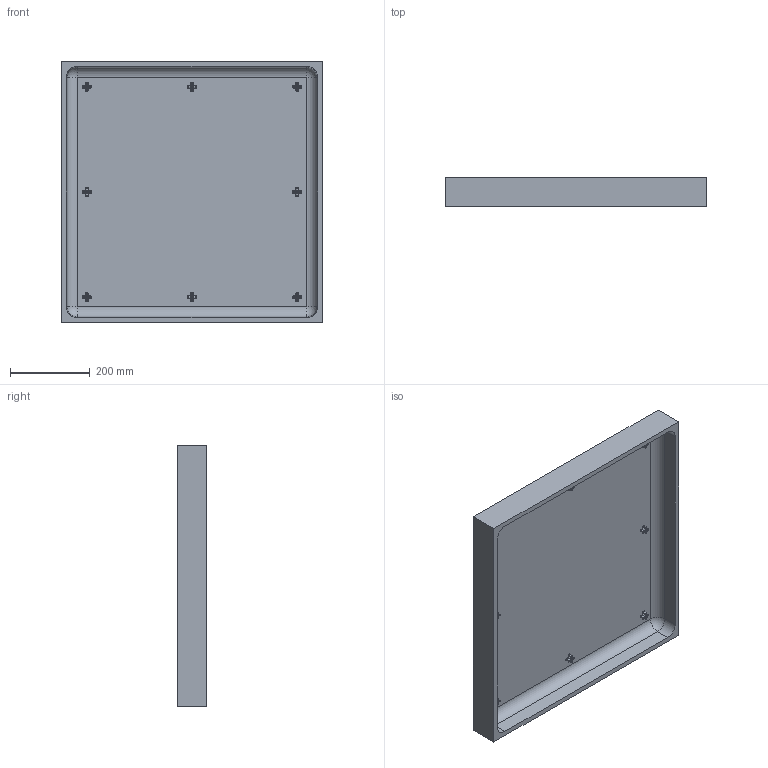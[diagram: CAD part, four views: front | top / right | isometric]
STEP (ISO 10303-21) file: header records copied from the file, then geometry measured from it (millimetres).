
FILE_DESCRIPTION (( 'STEP AP214' ), '1' );
FILE_NAME ('1640E - 932 TOP PID 2-21-2025.STEP', '2025-05-22T05:03:39', ( '' ), ( '' ), 'SwSTEP 2.0', 'SolidWorks 2021', '' );
FILE_SCHEMA (( 'AUTOMOTIVE_DESIGN' ));
Length unit declared in the file: inch
Products named in the file (1): 1640E - 932 TOP PID 2-21-2025
Bounding box: 656.29 x 73.03 x 656.29 mm (x, y, z)
Volume: 7985443 mm3; surface area: 1176287.2 mm2
Topology: 1 solids, 1 shells, 711 faces, 1664 edges, 904 vertices
Faces by surface type: cylinder 264, bspline 208, plane 123, torus 64, cone 48, sphere 4
Entity records: 26170 total; most frequent: CARTESIAN_POINT 12492, ORIENTED_EDGE 3192, DIRECTION 2424, EDGE_CURVE 1596, AXIS2_PLACEMENT_3D 932, VERTEX_POINT 904, EDGE_LOOP 728, FACE_OUTER_BOUND 711
